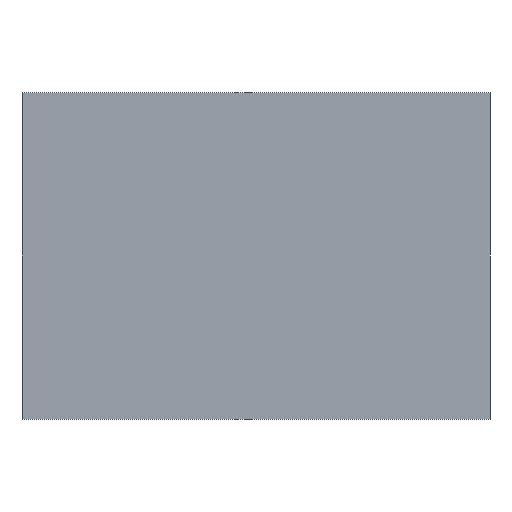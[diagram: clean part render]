
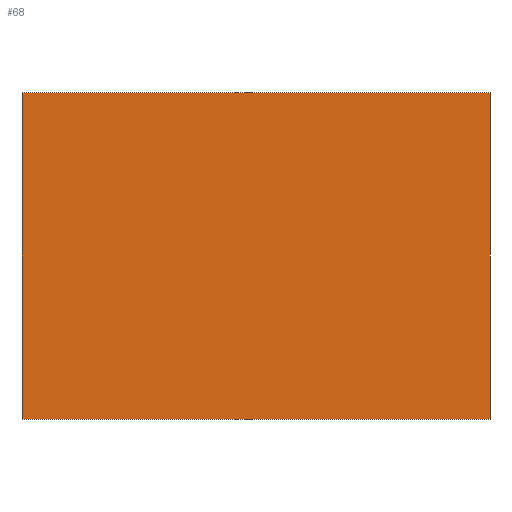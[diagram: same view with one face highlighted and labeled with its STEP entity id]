
A CAD part, front view. The second image highlights one B-rep face of the part: STEP entity #68.
In plain terms, the highlighted planar face has unit normal (0, -1, 0).
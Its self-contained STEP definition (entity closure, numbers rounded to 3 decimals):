
#43 = VERTEX_POINT('',#44);
#44 = CARTESIAN_POINT('',(-3.55,-9.85,4.96));
#50 = EDGE_CURVE('',#51,#43,#53,.T.);
#51 = VERTEX_POINT('',#52);
#52 = CARTESIAN_POINT('',(-3.55,-9.85,0.));
#53 = LINE('',#54,#55);
#54 = CARTESIAN_POINT('',(-3.55,-9.85,0.));
#55 = VECTOR('',#56,1.);
#56 = DIRECTION('',(0.,0.,1.));
#68 = ADVANCED_FACE('',(#69),#94,.F.);
#69 = FACE_BOUND('',#70,.F.);
#70 = EDGE_LOOP('',(#71,#72,#80,#88));
#71 = ORIENTED_EDGE('',*,*,#50,.T.);
#72 = ORIENTED_EDGE('',*,*,#73,.T.);
#73 = EDGE_CURVE('',#43,#74,#76,.T.);
#74 = VERTEX_POINT('',#75);
#75 = CARTESIAN_POINT('',(3.55,-9.85,4.96));
#76 = LINE('',#77,#78);
#77 = CARTESIAN_POINT('',(-3.55,-9.85,4.96));
#78 = VECTOR('',#79,1.);
#79 = DIRECTION('',(1.,0.,0.));
#80 = ORIENTED_EDGE('',*,*,#81,.F.);
#81 = EDGE_CURVE('',#82,#74,#84,.T.);
#82 = VERTEX_POINT('',#83);
#83 = CARTESIAN_POINT('',(3.55,-9.85,0.));
#84 = LINE('',#85,#86);
#85 = CARTESIAN_POINT('',(3.55,-9.85,0.));
#86 = VECTOR('',#87,1.);
#87 = DIRECTION('',(0.,0.,1.));
#88 = ORIENTED_EDGE('',*,*,#89,.F.);
#89 = EDGE_CURVE('',#51,#82,#90,.T.);
#90 = LINE('',#91,#92);
#91 = CARTESIAN_POINT('',(-3.55,-9.85,0.));
#92 = VECTOR('',#93,1.);
#93 = DIRECTION('',(1.,0.,0.));
#94 = PLANE('',#95);
#95 = AXIS2_PLACEMENT_3D('',#96,#97,#98);
#96 = CARTESIAN_POINT('',(-3.55,-9.85,0.));
#97 = DIRECTION('',(0.,1.,0.));
#98 = DIRECTION('',(1.,0.,0.));
